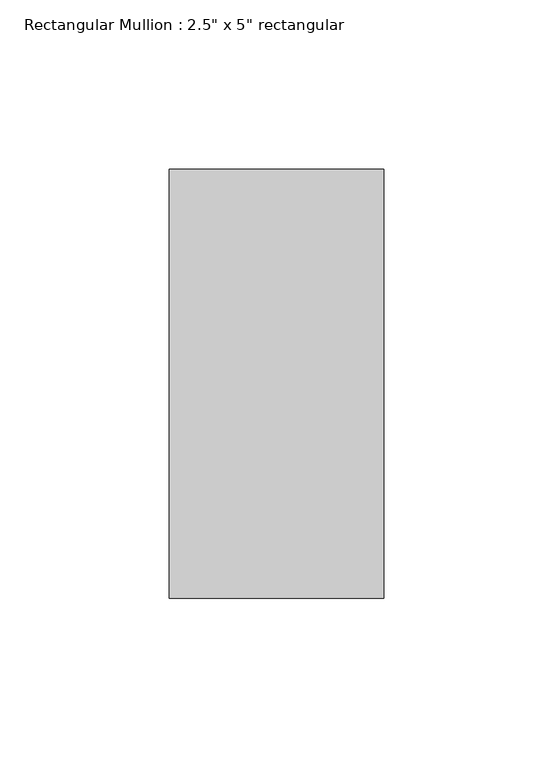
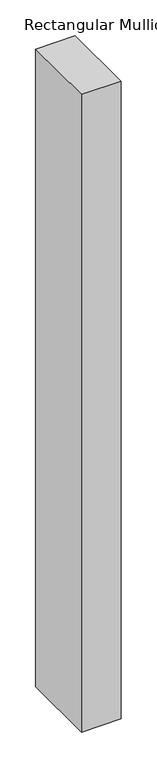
"""IFC4 building model written with IfcOpenShell, lengths in millimetres: member geometry."""

from ifc_helpers import new_model, si_unit, frame, origin, place, context, project, spatial, polyline, outline, extrude, source, transform, mapped, element, save


def member_533a60dd(model_context):
    return source(origin(), model_context, "Body", "SweptSolid", [
        extrude(outline(polyline([(31.75, 63.5), (31.75, -63.5), (-31.75, -63.5), (-31.75, 63.5), (31.75, 63.5)])), frame((0.0, 0.0, -1082.6750002), z_axis=(0.0, 0.0, 1.0), x_axis=(1.0, 0.0, 0.0)), (0.0, 0.0, 1.0), 1082.6750002),
    ])


if __name__ == "__main__":
    model = new_model("IFC4")
    model_context = context("Model", 3, world=origin())
    ifc_project = project(units=[si_unit("LENGTHUNIT", "METRE", prefix="MILLI")], contexts=[model_context])
    site = spatial("IfcSite", under=ifc_project)
    building = spatial("IfcBuilding", under=site)
    placement = place(None, origin())
    member_shape = member_533a60dd(model_context)
    element("IfcMember", 1, ObjectType="Rectangular Mullion : 2.5\" x 5\" rectangular", at=placement, inside=building, context=model_context, shape_type="MappedRepresentation", body=[
        mapped(member_shape, transform((0.0, 0.0, 0.0), x_axis=(1.0, 0.0, 0.0), y_axis=(0.0, 1.0, 0.0), z_axis=(0.0, 0.0, 1.0))),
    ])
    save(model, "model.ifc")
